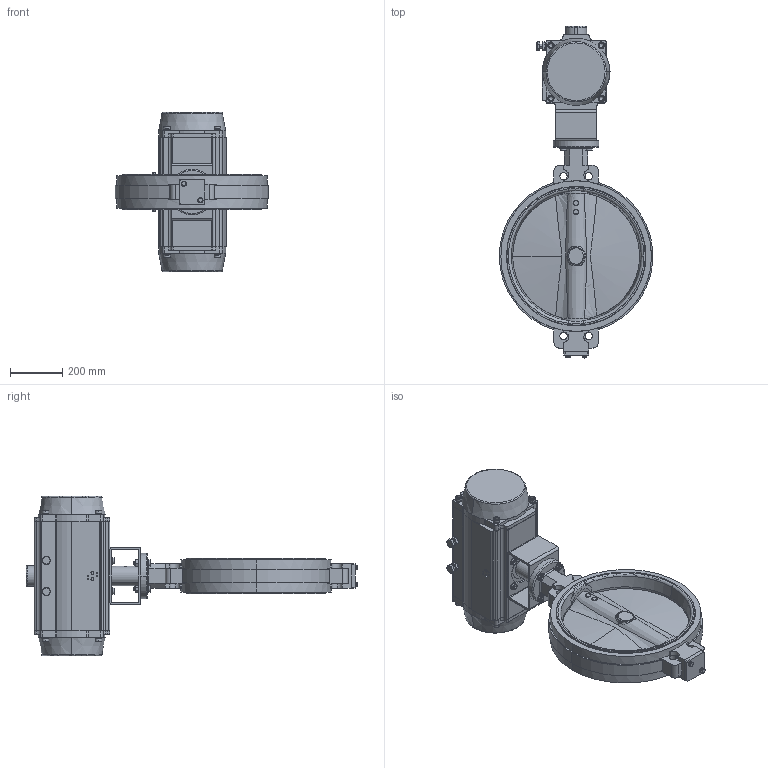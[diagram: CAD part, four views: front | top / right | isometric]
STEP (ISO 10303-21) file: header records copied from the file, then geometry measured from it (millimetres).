
FILE_DESCRIPTION (( 'STEP AP214' ), '1' );
FILE_NAME ('VPE4408-N03EP0500.STEP', '2020-08-17T11:43:24', ( '' ), ( '' ), 'SwSTEP 2.0', 'SolidWorks 2017', '' );
FILE_SCHEMA (( 'AUTOMOTIVE_DESIGN' ));
Length unit declared in the file: millimetre
Products named in the file (1): VPE4408-N03EP0500
Bounding box: 588.93 x 1274.1 x 612 mm (x, y, z)
Surface area: 2596279.4 mm2 (no closed solid volume)
Topology: 0 solids, 83 shells, 796 faces, 2426 edges, 1689 vertices
Faces by surface type: plane 315, cylinder 266, cone 115, bspline 66, torus 34
Entity records: 46213 total; most frequent: CARTESIAN_POINT 16473, DIRECTION 4371, ORIENTED_EDGE 4024, EDGE_CURVE 2412, AXIS2_PLACEMENT_3D 1717, VERTEX_POINT 1689, CIRCLE 986, VECTOR 937
